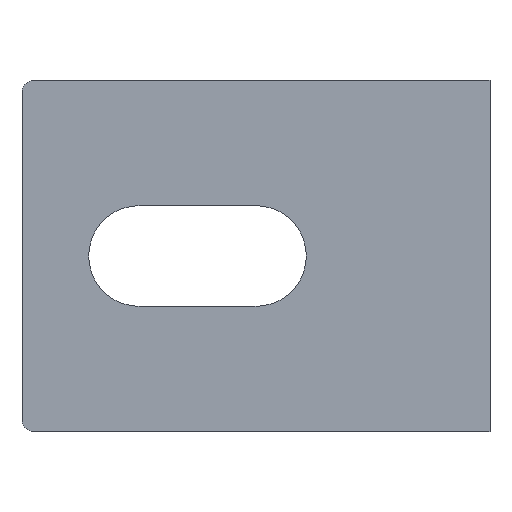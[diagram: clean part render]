
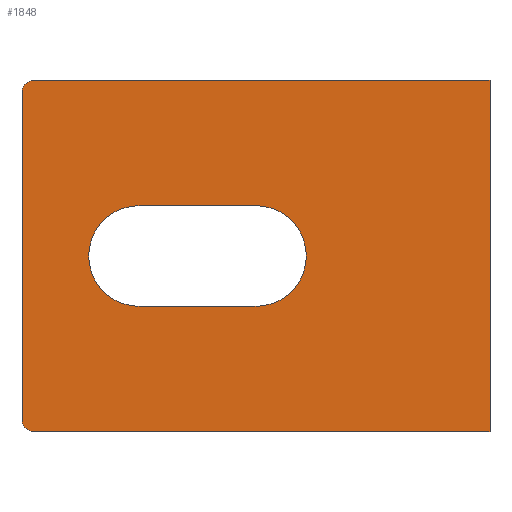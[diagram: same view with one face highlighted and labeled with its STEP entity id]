
A CAD part, front view. The second image highlights one B-rep face of the part: STEP entity #1848.
In plain terms, the highlighted planar face has unit normal (0, -1, 0).
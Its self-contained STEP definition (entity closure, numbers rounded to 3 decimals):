
#28 = DIRECTION ( 'NONE',  ( 0., 0., -1. ) ) ;
#36 = DIRECTION ( 'NONE',  ( 1., 0., 0. ) ) ;
#86 = EDGE_LOOP ( 'NONE', ( #2246, #2227, #1888, #1824 ) ) ;
#107 = CIRCLE ( 'NONE', #1102, 1. ) ;
#169 = CARTESIAN_POINT ( 'NONE',  ( -18.99, -21.104, 30. ) ) ;
#184 = ORIENTED_EDGE ( 'NONE', *, *, #1147, .T. ) ;
#236 = LINE ( 'NONE', #262, #358 ) ;
#262 = CARTESIAN_POINT ( 'NONE',  ( 0.01, -21.104, 19.3 ) ) ;
#288 = CARTESIAN_POINT ( 'NONE',  ( 20.01, -21.104, 30. ) ) ;
#356 = DIRECTION ( 'NONE',  ( 1., 0., 0. ) ) ;
#358 = VECTOR ( 'NONE', #464, 1000. ) ;
#419 = FACE_BOUND ( 'NONE', #86, .T. ) ;
#464 = DIRECTION ( 'NONE',  ( -1., 0., 0. ) ) ;
#474 = FACE_OUTER_BOUND ( 'NONE', #2038, .T. ) ;
#505 = CARTESIAN_POINT ( 'NONE',  ( -18.99, -21.104, 0. ) ) ;
#518 = DIRECTION ( 'NONE',  ( 0., 0., -1. ) ) ;
#545 = EDGE_CURVE ( 'NONE', #1061, #683, #1112, .T. ) ;
#552 = DIRECTION ( 'NONE',  ( 0., 0., 1. ) ) ;
#571 = EDGE_CURVE ( 'NONE', #2318, #1460, #577, .T. ) ;
#577 = LINE ( 'NONE', #923, #1039 ) ;
#630 = CARTESIAN_POINT ( 'NONE',  ( 0.01, -21.104, 10.7 ) ) ;
#658 = EDGE_CURVE ( 'NONE', #1896, #852, #1751, .T. ) ;
#683 = VERTEX_POINT ( 'NONE', #967 ) ;
#692 = AXIS2_PLACEMENT_3D ( 'NONE', #1109, #1070, #518 ) ;
#711 = CARTESIAN_POINT ( 'NONE',  ( 0., -21.104, 0. ) ) ;
#736 = DIRECTION ( 'NONE',  ( 0., -1., 0. ) ) ;
#852 = VERTEX_POINT ( 'NONE', #1346 ) ;
#886 = CARTESIAN_POINT ( 'NONE',  ( -9.99, -21.104, 19.3 ) ) ;
#923 = CARTESIAN_POINT ( 'NONE',  ( -19.99, -21.104, 30. ) ) ;
#960 = VECTOR ( 'NONE', #356, 1000. ) ;
#967 = CARTESIAN_POINT ( 'NONE',  ( -19.99, -21.104, 1. ) ) ;
#980 = CARTESIAN_POINT ( 'NONE',  ( 20.01, -21.104, 0. ) ) ;
#1000 = AXIS2_PLACEMENT_3D ( 'NONE', #2440, #1247, #1416 ) ;
#1039 = VECTOR ( 'NONE', #1916, 1000. ) ;
#1043 = DIRECTION ( 'NONE',  ( 0., -1., 0. ) ) ;
#1061 = VERTEX_POINT ( 'NONE', #1339 ) ;
#1070 = DIRECTION ( 'NONE',  ( 0., -1., 0. ) ) ;
#1082 = DIRECTION ( 'NONE',  ( 0., 0., 1. ) ) ;
#1102 = AXIS2_PLACEMENT_3D ( 'NONE', #1865, #736, #552 ) ;
#1109 = CARTESIAN_POINT ( 'NONE',  ( 0.01, -21.104, 15. ) ) ;
#1112 = LINE ( 'NONE', #2163, #1792 ) ;
#1147 = EDGE_CURVE ( 'NONE', #1460, #1061, #1850, .T. ) ;
#1172 = VERTEX_POINT ( 'NONE', #630 ) ;
#1179 = AXIS2_PLACEMENT_3D ( 'NONE', #1246, #1043, #28 ) ;
#1246 = CARTESIAN_POINT ( 'NONE',  ( -9.99, -21.104, 15. ) ) ;
#1247 = DIRECTION ( 'NONE',  ( 0., -1., 0. ) ) ;
#1327 = LINE ( 'NONE', #2162, #960 ) ;
#1339 = CARTESIAN_POINT ( 'NONE',  ( -19.99, -21.104, 29. ) ) ;
#1346 = CARTESIAN_POINT ( 'NONE',  ( 20.01, -21.104, 0. ) ) ;
#1368 = VERTEX_POINT ( 'NONE', #1978 ) ;
#1416 = DIRECTION ( 'NONE',  ( 0., 0., 1. ) ) ;
#1446 = ORIENTED_EDGE ( 'NONE', *, *, #2433, .T. ) ;
#1460 = VERTEX_POINT ( 'NONE', #169 ) ;
#1469 = CARTESIAN_POINT ( 'NONE',  ( 20.01, -21.104, 30. ) ) ;
#1480 = ORIENTED_EDGE ( 'NONE', *, *, #571, .T. ) ;
#1485 = CARTESIAN_POINT ( 'NONE',  ( -9.99, -21.104, 10.7 ) ) ;
#1548 = EDGE_CURVE ( 'NONE', #1976, #1172, #1327, .T. ) ;
#1704 = EDGE_CURVE ( 'NONE', #683, #1896, #107, .T. ) ;
#1751 = LINE ( 'NONE', #980, #2566 ) ;
#1792 = VECTOR ( 'NONE', #1960, 1000. ) ;
#1824 = ORIENTED_EDGE ( 'NONE', *, *, #2040, .F. ) ;
#1848 = ADVANCED_FACE ( 'NONE', ( #419, #474 ), #2321, .F. ) ;
#1850 = CIRCLE ( 'NONE', #1000, 1. ) ;
#1865 = CARTESIAN_POINT ( 'NONE',  ( -18.99, -21.104, 1. ) ) ;
#1888 = ORIENTED_EDGE ( 'NONE', *, *, #1548, .F. ) ;
#1896 = VERTEX_POINT ( 'NONE', #505 ) ;
#1916 = DIRECTION ( 'NONE',  ( -1., 0., 0. ) ) ;
#1930 = ORIENTED_EDGE ( 'NONE', *, *, #1704, .T. ) ;
#1959 = VERTEX_POINT ( 'NONE', #886 ) ;
#1960 = DIRECTION ( 'NONE',  ( 0., 0., -1. ) ) ;
#1976 = VERTEX_POINT ( 'NONE', #1485 ) ;
#1978 = CARTESIAN_POINT ( 'NONE',  ( 0.01, -21.104, 19.3 ) ) ;
#2038 = EDGE_LOOP ( 'NONE', ( #1480, #184, #2326, #1930, #2456, #1446 ) ) ;
#2040 = EDGE_CURVE ( 'NONE', #1959, #1976, #2544, .T. ) ;
#2101 = EDGE_CURVE ( 'NONE', #1368, #1959, #236, .T. ) ;
#2116 = CIRCLE ( 'NONE', #692, 4.3 ) ;
#2162 = CARTESIAN_POINT ( 'NONE',  ( -9.99, -21.104, 10.7 ) ) ;
#2163 = CARTESIAN_POINT ( 'NONE',  ( -19.99, -21.104, 0. ) ) ;
#2227 = ORIENTED_EDGE ( 'NONE', *, *, #2414, .F. ) ;
#2246 = ORIENTED_EDGE ( 'NONE', *, *, #2101, .F. ) ;
#2274 = DIRECTION ( 'NONE',  ( 0., 1., 0. ) ) ;
#2318 = VERTEX_POINT ( 'NONE', #1469 ) ;
#2321 = PLANE ( 'NONE',  #2376 ) ;
#2326 = ORIENTED_EDGE ( 'NONE', *, *, #545, .T. ) ;
#2376 = AXIS2_PLACEMENT_3D ( 'NONE', #711, #2274, #2489 ) ;
#2414 = EDGE_CURVE ( 'NONE', #1172, #1368, #2116, .T. ) ;
#2433 = EDGE_CURVE ( 'NONE', #852, #2318, #2514, .T. ) ;
#2440 = CARTESIAN_POINT ( 'NONE',  ( -18.99, -21.104, 29. ) ) ;
#2456 = ORIENTED_EDGE ( 'NONE', *, *, #658, .T. ) ;
#2463 = VECTOR ( 'NONE', #1082, 1000. ) ;
#2489 = DIRECTION ( 'NONE',  ( 0., 0., 1. ) ) ;
#2514 = LINE ( 'NONE', #288, #2463 ) ;
#2544 = CIRCLE ( 'NONE', #1179, 4.3 ) ;
#2566 = VECTOR ( 'NONE', #36, 1000. ) ;
